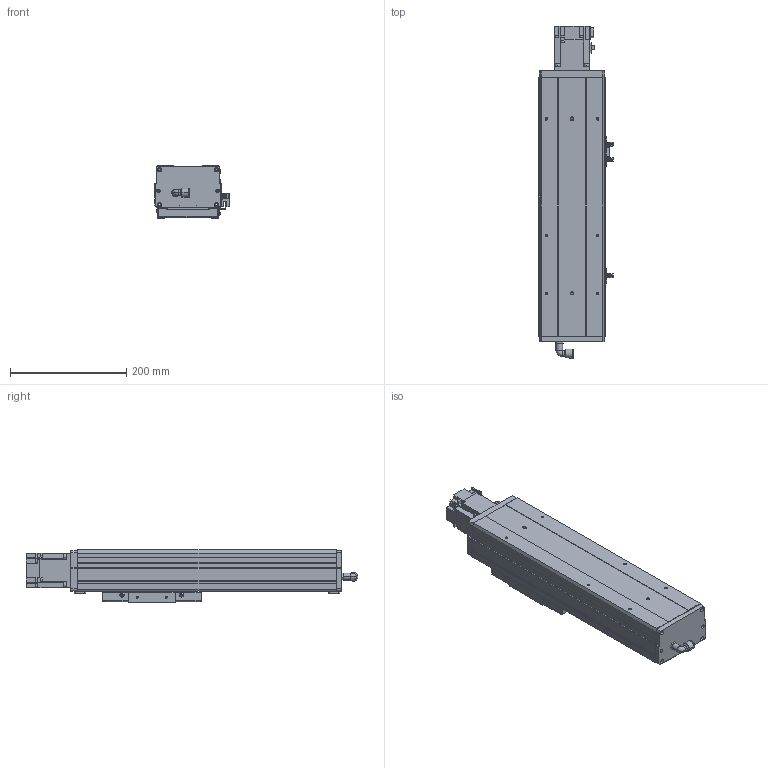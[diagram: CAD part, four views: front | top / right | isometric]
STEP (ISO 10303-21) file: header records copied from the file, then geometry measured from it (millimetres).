
FILE_DESCRIPTION (( 'STEP AP203' ), '1' );
FILE_NAME ('4.STEP', '2021-01-06T03:13:43', ( '' ), ( '' ), 'SwSTEP 2.0', 'SolidWorks 2016', '' );
FILE_SCHEMA (( 'CONFIG_CONTROL_DESIGN' ));
Length unit declared in the file: millimetre
Products named in the file (9): BCH11-BC-02; BCH11-BC-菁釱; BCH11-BC-M20; BCH11-BC-03; 4; BCH11-BC-04; BCH11-BC-10; BCH11-BC-01; BCH11-BC-HZ-01
Assembly tree (11 placements, depth 2):
  4
    BCH11-BC-菁釱
    BCH11-BC-01
    BCH11-BC-02  x2
    BCH11-BC-03
    BCH11-BC-04  x3
    BCH11-BC-HZ-01
    BCH11-BC-M20
    BCH11-BC-10
Bounding box: 127.7 x 570.53 x 90 mm (x, y, z)
Volume: 1608819.2 mm3; surface area: 497760.8 mm2
Topology: 19 solids, 19 shells, 1227 faces, 3113 edges, 1982 vertices
Faces by surface type: plane 787, cylinder 340, cone 76, sphere 12, bspline 10, torus 2
Entity records: 29954 total; most frequent: CARTESIAN_POINT 5322, DIRECTION 4985, ORIENTED_EDGE 4766, EDGE_CURVE 2383, LINE 1667, VECTOR 1667, AXIS2_PLACEMENT_3D 1659, VERTEX_POINT 1530
